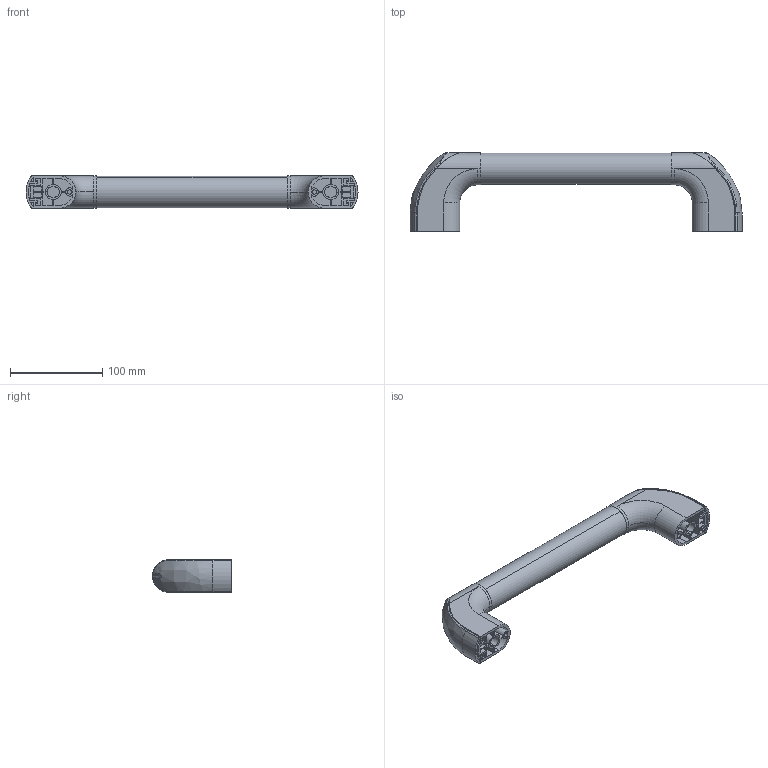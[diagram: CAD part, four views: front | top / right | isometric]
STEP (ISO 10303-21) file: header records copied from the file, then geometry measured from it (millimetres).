
FILE_DESCRIPTION (( 'STEP AP203' ), '1' );
FILE_NAME ('SK4-224-34-300C.STEP', '2017-06-27T06:18:58', ( 'admin' ), ( 'Microsoft' ), 'SwSTEP 2.0', 'SolidWorks 2015', '' );
FILE_SCHEMA (( 'CONFIG_CONTROL_DESIGN' ));
Length unit declared in the file: millimetre
Products named in the file (3): SK4-224-34-300C 釱赽; SK4-224-34-300C
Assembly tree (3 placements, depth 2):
  SK4-224-34-300C
    SK4-224-34-300C 釱赽  x2
    SK4-224-34-300C
Bounding box: 360 x 85.5 x 35 mm (x, y, z)
Volume: 441205.8 mm3; surface area: 76183.3 mm2
Topology: 3 solids, 3 shells, 272 faces, 714 edges, 460 vertices
Faces by surface type: plane 174, cylinder 56, bspline 38, torus 4
Entity records: 5919 total; most frequent: CARTESIAN_POINT 2306, ORIENTED_EDGE 716, DIRECTION 624, EDGE_CURVE 358, VECTOR 258, LINE 258, VERTEX_POINT 232, AXIS2_PLACEMENT_3D 183
